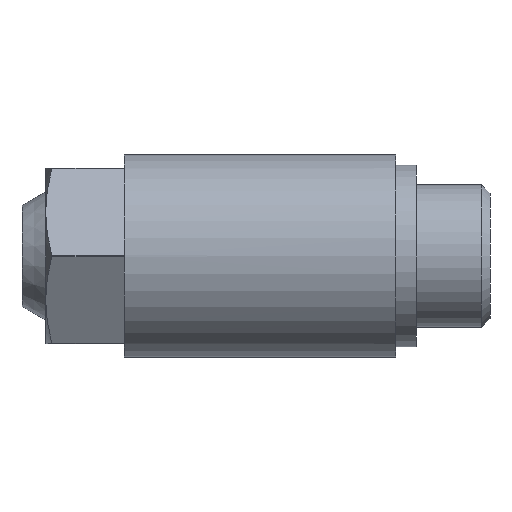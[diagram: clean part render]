
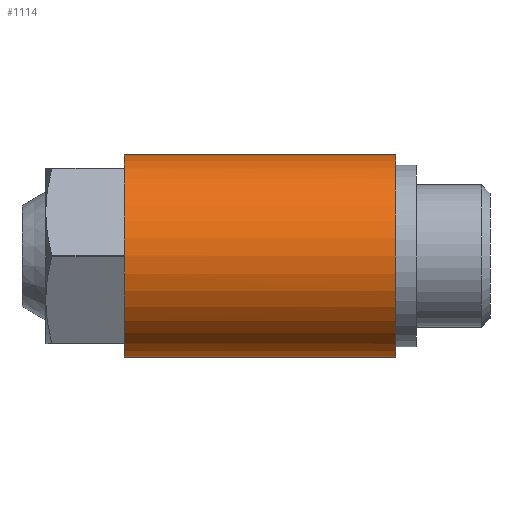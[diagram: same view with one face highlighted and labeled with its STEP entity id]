
A CAD part, left-side view. The second image highlights one B-rep face of the part: STEP entity #1114.
In plain terms, the highlighted cylindrical face has radius 6.9 mm (diameter 13.8 mm), a partial arc.
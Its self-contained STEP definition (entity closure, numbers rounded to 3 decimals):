
#6 = CARTESIAN_POINT ( 'NONE',  ( -3.407, 11.166, -6. ) ) ;
#30 = DIRECTION ( 'NONE',  ( 0., 1., 0. ) ) ;
#49 = VECTOR ( 'NONE', #1520, 1000. ) ;
#97 = CIRCLE ( 'NONE', #214, 6.9 ) ;
#104 = DIRECTION ( 'NONE',  ( 0., -1., 0. ) ) ;
#108 = CARTESIAN_POINT ( 'NONE',  ( -3.492, 11.166, -5.951 ) ) ;
#141 = DIRECTION ( 'NONE',  ( 0., 1., 0. ) ) ;
#196 = VERTEX_POINT ( 'NONE', #2207 ) ;
#214 = AXIS2_PLACEMENT_3D ( 'NONE', #1094, #2233, #2022 ) ;
#218 = DIRECTION ( 'NONE',  ( 0., 0., -1. ) ) ;
#234 = CIRCLE ( 'NONE', #2162, 6.9 ) ;
#250 = LINE ( 'NONE', #452, #1277 ) ;
#272 = CARTESIAN_POINT ( 'NONE',  ( -3.492, 11.166, 5.951 ) ) ;
#285 = LINE ( 'NONE', #1933, #1221 ) ;
#293 = AXIS2_PLACEMENT_3D ( 'NONE', #2056, #104, #218 ) ;
#322 = AXIS2_PLACEMENT_3D ( 'NONE', #1340, #30, #967 ) ;
#328 = EDGE_CURVE ( 'NONE', #1810, #429, #992, .T. ) ;
#337 = DIRECTION ( 'NONE',  ( 0., 0., -1. ) ) ;
#351 = DIRECTION ( 'NONE',  ( 0., -1., 0. ) ) ;
#388 = CARTESIAN_POINT ( 'NONE',  ( -6.9, 6.206, 0.049 ) ) ;
#417 = VERTEX_POINT ( 'NONE', #2024 ) ;
#419 = VERTEX_POINT ( 'NONE', #921 ) ;
#429 = VERTEX_POINT ( 'NONE', #1283 ) ;
#452 = CARTESIAN_POINT ( 'NONE',  ( 0., -0.582, 6.9 ) ) ;
#453 = CIRCLE ( 'NONE', #1961, 6.9 ) ;
#498 = CARTESIAN_POINT ( 'NONE',  ( -3.492, 6.206, -5.951 ) ) ;
#501 = FACE_OUTER_BOUND ( 'NONE', #955, .T. ) ;
#504 = CARTESIAN_POINT ( 'NONE',  ( 0., 6.206, 0. ) ) ;
#591 = CARTESIAN_POINT ( 'NONE',  ( 0., -0.582, -6.9 ) ) ;
#592 = CARTESIAN_POINT ( 'NONE',  ( 0., 11.166, 0. ) ) ;
#608 = CYLINDRICAL_SURFACE ( 'NONE', #293, 6.9 ) ;
#626 = CARTESIAN_POINT ( 'NONE',  ( -3.407, -0.582, 6. ) ) ;
#635 = DIRECTION ( 'NONE',  ( 0., -1., 0. ) ) ;
#659 = DIRECTION ( 'NONE',  ( 0., -1., 0. ) ) ;
#677 = VECTOR ( 'NONE', #1617, 1000. ) ;
#684 = LINE ( 'NONE', #2431, #803 ) ;
#704 = EDGE_CURVE ( 'NONE', #417, #419, #1878, .T. ) ;
#760 = CIRCLE ( 'NONE', #1936, 6.9 ) ;
#772 = VECTOR ( 'NONE', #1792, 1000. ) ;
#781 = CARTESIAN_POINT ( 'NONE',  ( -6.9, -0.582, 0.049 ) ) ;
#784 = VERTEX_POINT ( 'NONE', #388 ) ;
#785 = VERTEX_POINT ( 'NONE', #272 ) ;
#788 = DIRECTION ( 'NONE',  ( 0., 0., -1. ) ) ;
#791 = EDGE_CURVE ( 'NONE', #1638, #784, #760, .T. ) ;
#803 = VECTOR ( 'NONE', #635, 1000. ) ;
#847 = EDGE_CURVE ( 'NONE', #2262, #913, #97, .T. ) ;
#864 = DIRECTION ( 'NONE',  ( 0., -1., 0. ) ) ;
#872 = CARTESIAN_POINT ( 'NONE',  ( 0., 6.206, 0. ) ) ;
#913 = VERTEX_POINT ( 'NONE', #108 ) ;
#921 = CARTESIAN_POINT ( 'NONE',  ( 0., -12.33, -6.9 ) ) ;
#927 = VERTEX_POINT ( 'NONE', #1756 ) ;
#936 = DIRECTION ( 'NONE',  ( 0., -1., 0. ) ) ;
#950 = DIRECTION ( 'NONE',  ( 0., 0., -1. ) ) ;
#952 = AXIS2_PLACEMENT_3D ( 'NONE', #1659, #2435, #1941 ) ;
#955 = EDGE_LOOP ( 'NONE', ( #1132, #1319, #1461, #994, #2263, #1623, #1564, #1402, #1678, #2351, #2197, #1721, #1154, #2458, #1454, #1073 ) ) ;
#958 = VERTEX_POINT ( 'NONE', #498 ) ;
#967 = DIRECTION ( 'NONE',  ( 0., 0., -1. ) ) ;
#971 = CIRCLE ( 'NONE', #952, 6.9 ) ;
#979 = LINE ( 'NONE', #1284, #772 ) ;
#992 = CIRCLE ( 'NONE', #1832, 6.9 ) ;
#994 = ORIENTED_EDGE ( 'NONE', *, *, #1302, .F. ) ;
#1035 = EDGE_CURVE ( 'NONE', #1810, #1200, #250, .T. ) ;
#1073 = ORIENTED_EDGE ( 'NONE', *, *, #1225, .T. ) ;
#1094 = CARTESIAN_POINT ( 'NONE',  ( 0., 11.166, 0. ) ) ;
#1114 = ADVANCED_FACE ( 'NONE', ( #501 ), #608, .T. ) ;
#1132 = ORIENTED_EDGE ( 'NONE', *, *, #1035, .F. ) ;
#1154 = ORIENTED_EDGE ( 'NONE', *, *, #2347, .T. ) ;
#1177 = EDGE_CURVE ( 'NONE', #958, #913, #2459, .T. ) ;
#1200 = VERTEX_POINT ( 'NONE', #2448 ) ;
#1221 = VECTOR ( 'NONE', #936, 1000. ) ;
#1225 = EDGE_CURVE ( 'NONE', #419, #1200, #971, .T. ) ;
#1226 = DIRECTION ( 'NONE',  ( 0., -1., 0. ) ) ;
#1255 = CARTESIAN_POINT ( 'NONE',  ( 0., 6.206, 0. ) ) ;
#1277 = VECTOR ( 'NONE', #659, 1000. ) ;
#1283 = CARTESIAN_POINT ( 'NONE',  ( -3.407, 6.206, 6. ) ) ;
#1284 = CARTESIAN_POINT ( 'NONE',  ( -3.407, -0.582, -6. ) ) ;
#1287 = CARTESIAN_POINT ( 'NONE',  ( -3.492, -0.582, -5.951 ) ) ;
#1302 = EDGE_CURVE ( 'NONE', #785, #2316, #1662, .T. ) ;
#1319 = ORIENTED_EDGE ( 'NONE', *, *, #328, .T. ) ;
#1340 = CARTESIAN_POINT ( 'NONE',  ( 0., 11.166, 0. ) ) ;
#1343 = VERTEX_POINT ( 'NONE', #1668 ) ;
#1359 = EDGE_CURVE ( 'NONE', #196, #1343, #285, .T. ) ;
#1402 = ORIENTED_EDGE ( 'NONE', *, *, #2139, .F. ) ;
#1445 = AXIS2_PLACEMENT_3D ( 'NONE', #872, #1953, #950 ) ;
#1454 = ORIENTED_EDGE ( 'NONE', *, *, #704, .T. ) ;
#1461 = ORIENTED_EDGE ( 'NONE', *, *, #1546, .T. ) ;
#1520 = DIRECTION ( 'NONE',  ( 0., 1., 0. ) ) ;
#1524 = LINE ( 'NONE', #781, #49 ) ;
#1543 = VECTOR ( 'NONE', #141, 1000. ) ;
#1546 = EDGE_CURVE ( 'NONE', #429, #2316, #2028, .T. ) ;
#1564 = ORIENTED_EDGE ( 'NONE', *, *, #1746, .T. ) ;
#1617 = DIRECTION ( 'NONE',  ( 0., 1., 0. ) ) ;
#1623 = ORIENTED_EDGE ( 'NONE', *, *, #791, .T. ) ;
#1638 = VERTEX_POINT ( 'NONE', #2118 ) ;
#1659 = CARTESIAN_POINT ( 'NONE',  ( 0., -12.33, 0. ) ) ;
#1662 = CIRCLE ( 'NONE', #322, 6.9 ) ;
#1668 = CARTESIAN_POINT ( 'NONE',  ( -6.9, 6.206, -0.049 ) ) ;
#1678 = ORIENTED_EDGE ( 'NONE', *, *, #1359, .T. ) ;
#1721 = ORIENTED_EDGE ( 'NONE', *, *, #847, .F. ) ;
#1723 = CARTESIAN_POINT ( 'NONE',  ( -3.407, 6.206, -6. ) ) ;
#1745 = DIRECTION ( 'NONE',  ( 0., -1., 0. ) ) ;
#1746 = EDGE_CURVE ( 'NONE', #784, #927, #1524, .T. ) ;
#1756 = CARTESIAN_POINT ( 'NONE',  ( -6.9, 11.166, 0.049 ) ) ;
#1792 = DIRECTION ( 'NONE',  ( 0., -1., 0. ) ) ;
#1810 = VERTEX_POINT ( 'NONE', #2104 ) ;
#1827 = DIRECTION ( 'NONE',  ( 0., 0., -1. ) ) ;
#1832 = AXIS2_PLACEMENT_3D ( 'NONE', #504, #1226, #2105 ) ;
#1878 = LINE ( 'NONE', #591, #2455 ) ;
#1925 = DIRECTION ( 'NONE',  ( 0., 1., 0. ) ) ;
#1933 = CARTESIAN_POINT ( 'NONE',  ( -6.9, -0.582, -0.049 ) ) ;
#1936 = AXIS2_PLACEMENT_3D ( 'NONE', #1255, #864, #788 ) ;
#1941 = DIRECTION ( 'NONE',  ( 0., 0., -1. ) ) ;
#1953 = DIRECTION ( 'NONE',  ( 0., -1., 0. ) ) ;
#1961 = AXIS2_PLACEMENT_3D ( 'NONE', #592, #1925, #337 ) ;
#2022 = DIRECTION ( 'NONE',  ( 0., 0., -1. ) ) ;
#2024 = CARTESIAN_POINT ( 'NONE',  ( 0., 6.206, -6.9 ) ) ;
#2028 = LINE ( 'NONE', #626, #677 ) ;
#2056 = CARTESIAN_POINT ( 'NONE',  ( 0., -0.582, 0. ) ) ;
#2104 = CARTESIAN_POINT ( 'NONE',  ( 0., 6.206, 6.9 ) ) ;
#2105 = DIRECTION ( 'NONE',  ( 0., 0., -1. ) ) ;
#2118 = CARTESIAN_POINT ( 'NONE',  ( -3.492, 6.206, 5.951 ) ) ;
#2133 = CARTESIAN_POINT ( 'NONE',  ( -3.407, 11.166, 6. ) ) ;
#2139 = EDGE_CURVE ( 'NONE', #196, #927, #453, .T. ) ;
#2162 = AXIS2_PLACEMENT_3D ( 'NONE', #2395, #351, #1827 ) ;
#2197 = ORIENTED_EDGE ( 'NONE', *, *, #1177, .T. ) ;
#2207 = CARTESIAN_POINT ( 'NONE',  ( -6.9, 11.166, -0.049 ) ) ;
#2233 = DIRECTION ( 'NONE',  ( 0., 1., 0. ) ) ;
#2262 = VERTEX_POINT ( 'NONE', #6 ) ;
#2263 = ORIENTED_EDGE ( 'NONE', *, *, #2477, .T. ) ;
#2316 = VERTEX_POINT ( 'NONE', #2133 ) ;
#2347 = EDGE_CURVE ( 'NONE', #2262, #2392, #979, .T. ) ;
#2351 = ORIENTED_EDGE ( 'NONE', *, *, #2463, .T. ) ;
#2392 = VERTEX_POINT ( 'NONE', #1723 ) ;
#2395 = CARTESIAN_POINT ( 'NONE',  ( 0., 6.206, 0. ) ) ;
#2431 = CARTESIAN_POINT ( 'NONE',  ( -3.492, -0.582, 5.951 ) ) ;
#2435 = DIRECTION ( 'NONE',  ( 0., 1., 0. ) ) ;
#2448 = CARTESIAN_POINT ( 'NONE',  ( 0., -12.33, 6.9 ) ) ;
#2450 = EDGE_CURVE ( 'NONE', #2392, #417, #2505, .T. ) ;
#2455 = VECTOR ( 'NONE', #1745, 1000. ) ;
#2458 = ORIENTED_EDGE ( 'NONE', *, *, #2450, .T. ) ;
#2459 = LINE ( 'NONE', #1287, #1543 ) ;
#2463 = EDGE_CURVE ( 'NONE', #1343, #958, #234, .T. ) ;
#2477 = EDGE_CURVE ( 'NONE', #785, #1638, #684, .T. ) ;
#2505 = CIRCLE ( 'NONE', #1445, 6.9 ) ;
